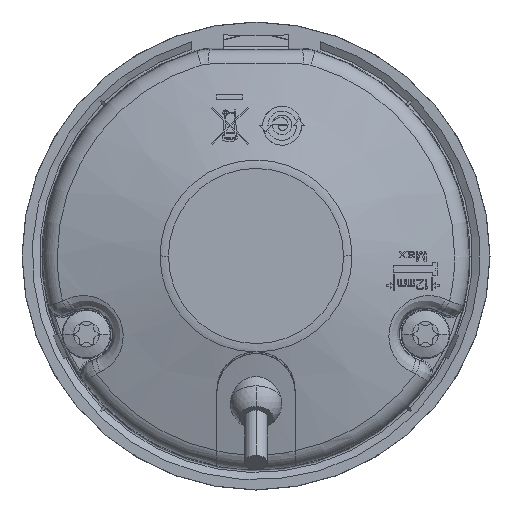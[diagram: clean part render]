
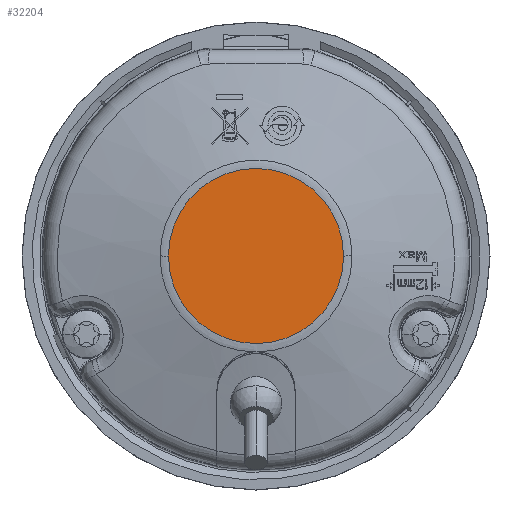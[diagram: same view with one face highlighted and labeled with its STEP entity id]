
A CAD part, front view. The second image highlights one B-rep face of the part: STEP entity #32204.
In plain terms, the highlighted planar face has unit normal (0, -1, 0).
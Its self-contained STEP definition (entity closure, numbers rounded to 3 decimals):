
#9970=CARTESIAN_POINT('',(0.,-22.01,0.));
#9971=DIRECTION('',(0.,-1.,0.));
#9972=DIRECTION('',(-1.,0.,0.));
#9973=AXIS2_PLACEMENT_3D('',#9970,#9971,#9972);
#9990=CARTESIAN_POINT('',(0.,-22.01,0.));
#9991=DIRECTION('',(0.,-1.,0.));
#9992=DIRECTION('',(1.,0.,0.));
#9993=AXIS2_PLACEMENT_3D('',#9990,#9991,#9992);
#10000=CARTESIAN_POINT('',(0.,-22.01,0.));
#10001=DIRECTION('',(0.,1.,0.));
#10002=DIRECTION('',(-1.,0.,0.));
#10003=AXIS2_PLACEMENT_3D('',#10000,#10001,#10002);
#10005=CARTESIAN_POINT('',(0.,-22.01,0.));
#10006=DIRECTION('',(0.,1.,0.));
#10007=DIRECTION('',(1.,0.,0.));
#10008=AXIS2_PLACEMENT_3D('',#10005,#10006,#10007);
#19247=CARTESIAN_POINT('',(-13.431,-22.01,0.));
#19248=VERTEX_POINT('',#19247);
#19249=CARTESIAN_POINT('',(13.431,-22.01,0.));
#19250=CARTESIAN_POINT('',(-13.431,-22.01,-0.044));
#19251=VERTEX_POINT('',#19249);
#19252=VERTEX_POINT('',#19250);
#19253=CARTESIAN_POINT('',(13.431,-22.01,0.044));
#19254=VERTEX_POINT('',#19253);
#32193=CARTESIAN_POINT('',(0.,-22.01,0.));
#32194=DIRECTION('',(0.,-1.,0.));
#32195=DIRECTION('',(-1.,0.,0.));
#32196=AXIS2_PLACEMENT_3D('',#32193,#32194,#32195);
#32197=PLANE('',#32196);
#32198=ORIENTED_EDGE('',*,*,#32187,.T.);
#32199=ORIENTED_EDGE('',*,*,#32185,.F.);
#32200=ORIENTED_EDGE('',*,*,#32170,.T.);
#32201=ORIENTED_EDGE('',*,*,#32168,.F.);
#32202=EDGE_LOOP('',(#32198,#32199,#32200,#32201));
#32203=FACE_OUTER_BOUND('',#32202,.F.);
#9974=CIRCLE('',#9973,13.431);
#9994=CIRCLE('',#9993,13.431);
#10004=CIRCLE('',#10003,13.431);
#10009=CIRCLE('',#10008,13.431);
#32168=EDGE_CURVE('',#19248,#19252,#9974,.T.);
#32170=EDGE_CURVE('',#19251,#19252,#10009,.T.);
#32185=EDGE_CURVE('',#19251,#19254,#9994,.T.);
#32187=EDGE_CURVE('',#19248,#19254,#10004,.T.);
#32204=ADVANCED_FACE('',(#32203),#32197,.T.);
